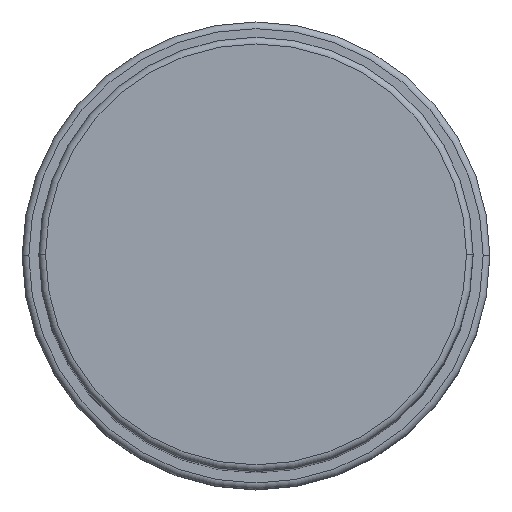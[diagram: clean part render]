
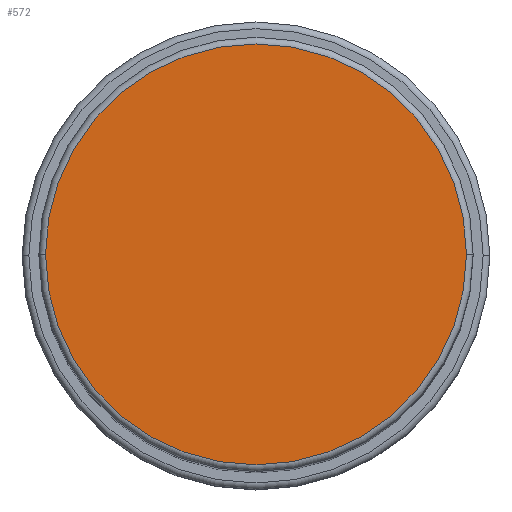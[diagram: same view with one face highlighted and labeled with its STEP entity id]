
A CAD part, top view. The second image highlights one B-rep face of the part: STEP entity #572.
In plain terms, the highlighted planar face has unit normal (0, 0, 1).
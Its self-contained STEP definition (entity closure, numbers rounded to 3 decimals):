
#116 = CARTESIAN_POINT ( 'NONE',  ( 31.5, 0., 138. ) ) ;
#215 = AXIS2_PLACEMENT_3D ( 'NONE', #1171, #1046, #930 ) ;
#321 = PLANE ( 'NONE',  #1609 ) ;
#462 = ORIENTED_EDGE ( 'NONE', *, *, #954, .T. ) ;
#527 = DIRECTION ( 'NONE',  ( 0., 0., 1. ) ) ;
#572 = ADVANCED_FACE ( 'NONE', ( #1155 ), #321, .T. ) ;
#590 = CIRCLE ( 'NONE', #1571, 31.5 ) ;
#646 = DIRECTION ( 'NONE',  ( 0., 0., 1. ) ) ;
#841 = EDGE_CURVE ( 'NONE', #1484, #1587, #590, .T. ) ;
#900 = CARTESIAN_POINT ( 'NONE',  ( 0., 0., 138. ) ) ;
#930 = DIRECTION ( 'NONE',  ( 1., 0., 0. ) ) ;
#954 = EDGE_CURVE ( 'NONE', #1587, #1484, #1460, .T. ) ;
#1046 = DIRECTION ( 'NONE',  ( 0., 0., 1. ) ) ;
#1082 = DIRECTION ( 'NONE',  ( 1., 0., 0. ) ) ;
#1098 = CARTESIAN_POINT ( 'NONE',  ( 0., 0., 138. ) ) ;
#1155 = FACE_OUTER_BOUND ( 'NONE', #1504, .T. ) ;
#1171 = CARTESIAN_POINT ( 'NONE',  ( 0., 0., 138. ) ) ;
#1380 = CARTESIAN_POINT ( 'NONE',  ( -31.5, 0., 138. ) ) ;
#1412 = DIRECTION ( 'NONE',  ( 1., 0., 0. ) ) ;
#1460 = CIRCLE ( 'NONE', #215, 31.5 ) ;
#1484 = VERTEX_POINT ( 'NONE', #116 ) ;
#1504 = EDGE_LOOP ( 'NONE', ( #1560, #462 ) ) ;
#1560 = ORIENTED_EDGE ( 'NONE', *, *, #841, .T. ) ;
#1571 = AXIS2_PLACEMENT_3D ( 'NONE', #900, #646, #1412 ) ;
#1587 = VERTEX_POINT ( 'NONE', #1380 ) ;
#1609 = AXIS2_PLACEMENT_3D ( 'NONE', #1098, #527, #1082 ) ;
